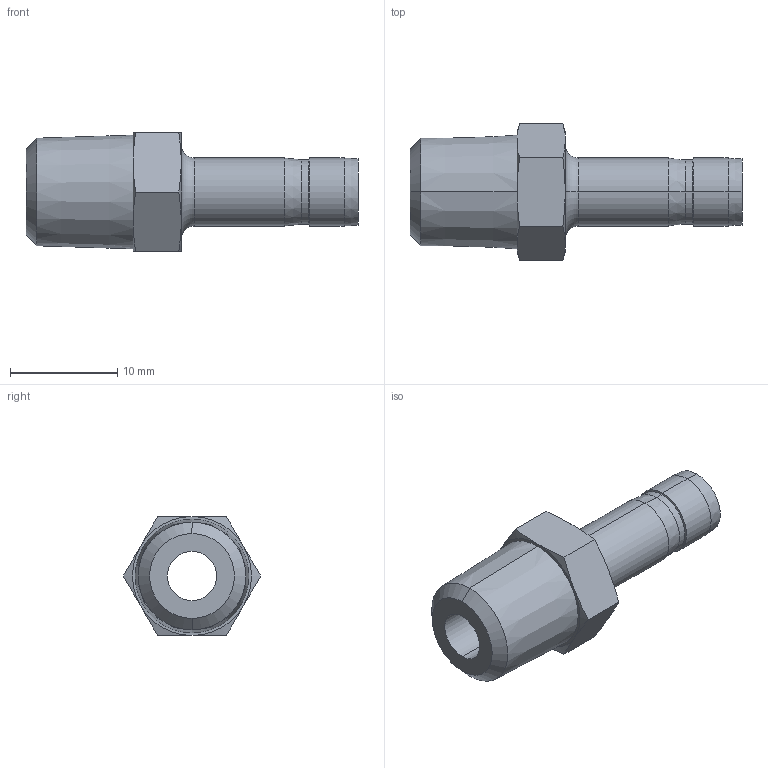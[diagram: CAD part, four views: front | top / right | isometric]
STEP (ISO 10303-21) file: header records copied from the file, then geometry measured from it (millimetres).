
FILE_DESCRIPTION (( 'STEP AP203' ), '1' );
FILE_NAME ('DHA04-02 SS.STEP', '2009-09-08T06:14:35', ( ' ' ), ( '' ), 'SwSTEP 2.0', 'SolidWorks 2008', '' );
FILE_SCHEMA (( 'CONFIG_CONTROL_DESIGN' ));
Length unit declared in the file: millimetre
Products named in the file (1): DHA04-02 SS
Bounding box: 31 x 12.83 x 11.11 mm (x, y, z)
Volume: 1305.8 mm3; surface area: 1409.1 mm2
Topology: 1 solids, 1 shells, 42 faces, 88 edges, 50 vertices
Faces by surface type: cone 22, plane 10, cylinder 8, torus 2
Entity records: 1217 total; most frequent: CARTESIAN_POINT 261, DIRECTION 190, ORIENTED_EDGE 176, EDGE_CURVE 88, AXIS2_PLACEMENT_3D 83, VERTEX_POINT 50, EDGE_LOOP 46, ADVANCED_FACE 42
